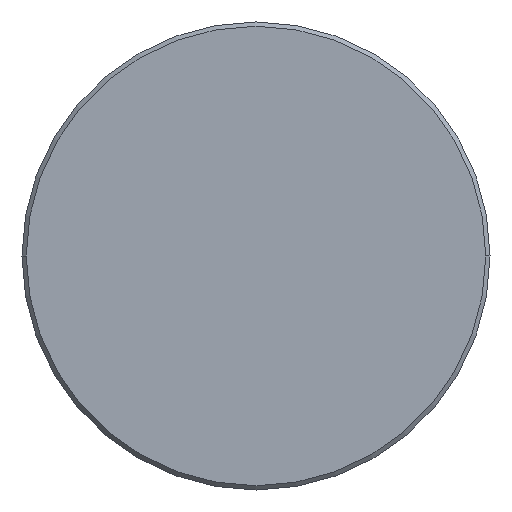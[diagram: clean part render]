
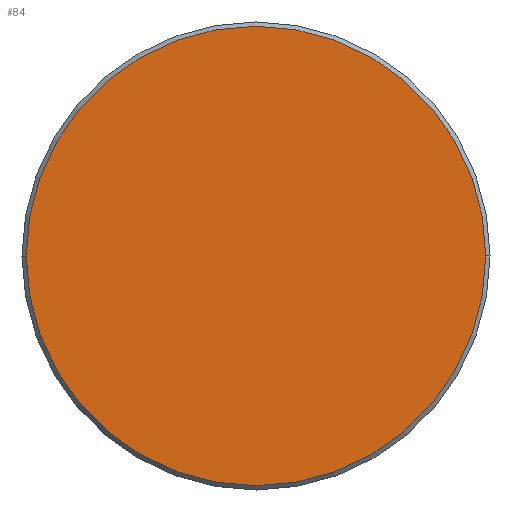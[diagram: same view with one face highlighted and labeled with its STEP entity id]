
A CAD part, left-side view. The second image highlights one B-rep face of the part: STEP entity #84.
In plain terms, the highlighted planar face has unit normal (-1, 0, 0).
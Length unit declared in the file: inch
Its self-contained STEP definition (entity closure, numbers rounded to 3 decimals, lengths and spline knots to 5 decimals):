
#13 = PLANE ( 'NONE',  #254 ) ;
#36 = AXIS2_PLACEMENT_3D ( 'NONE', #134, #198, #372 ) ;
#39 = CARTESIAN_POINT ( 'NONE',  ( 0., 0., 0. ) ) ;
#75 = VERTEX_POINT ( 'NONE', #156 ) ;
#84 = ADVANCED_FACE ( 'NONE', ( #253 ), #13, .T. ) ;
#100 = CARTESIAN_POINT ( 'NONE',  ( 0., 0.21475, 0. ) ) ;
#130 = DIRECTION ( 'NONE',  ( 0., -1., 0. ) ) ;
#134 = CARTESIAN_POINT ( 'NONE',  ( 0., 0., 0. ) ) ;
#139 = DIRECTION ( 'NONE',  ( 0., -1., 0. ) ) ;
#151 = EDGE_LOOP ( 'NONE', ( #246, #287 ) ) ;
#156 = CARTESIAN_POINT ( 'NONE',  ( 0., -0.21475, 0. ) ) ;
#157 = VERTEX_POINT ( 'NONE', #100 ) ;
#180 = EDGE_CURVE ( 'NONE', #75, #157, #216, .T. ) ;
#198 = DIRECTION ( 'NONE',  ( -1., 0., 0. ) ) ;
#216 = CIRCLE ( 'NONE', #36, 0.21475 ) ;
#246 = ORIENTED_EDGE ( 'NONE', *, *, #274, .T. ) ;
#250 = DIRECTION ( 'NONE',  ( -1., 0., 0. ) ) ;
#253 = FACE_OUTER_BOUND ( 'NONE', #151, .T. ) ;
#254 = AXIS2_PLACEMENT_3D ( 'NONE', #39, #250, #130 ) ;
#274 = EDGE_CURVE ( 'NONE', #157, #75, #304, .T. ) ;
#287 = ORIENTED_EDGE ( 'NONE', *, *, #180, .T. ) ;
#304 = CIRCLE ( 'NONE', #323, 0.21475 ) ;
#313 = DIRECTION ( 'NONE',  ( -1., 0., 0. ) ) ;
#319 = CARTESIAN_POINT ( 'NONE',  ( 0., 0., 0. ) ) ;
#323 = AXIS2_PLACEMENT_3D ( 'NONE', #319, #313, #139 ) ;
#372 = DIRECTION ( 'NONE',  ( 0., -1., 0. ) ) ;
